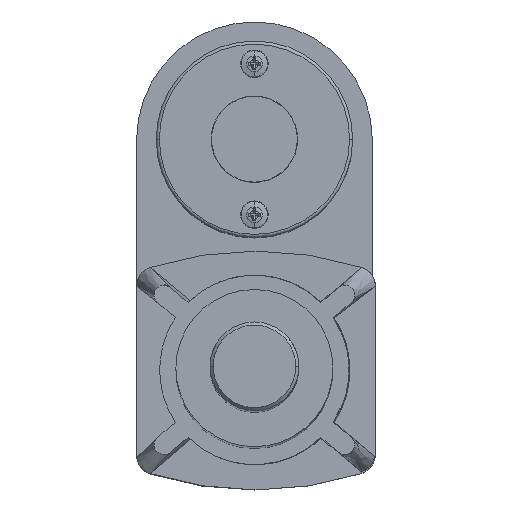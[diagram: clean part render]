
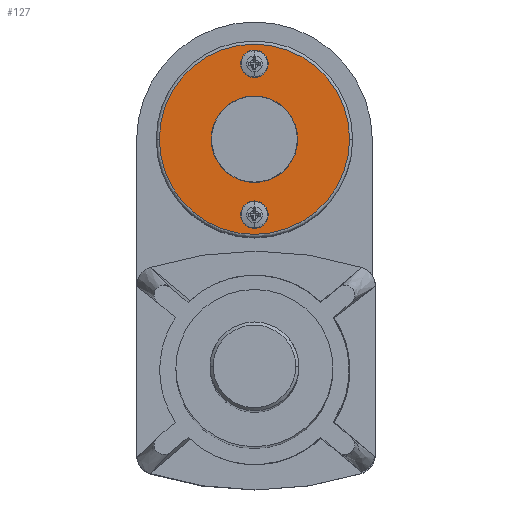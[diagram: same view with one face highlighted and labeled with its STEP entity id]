
A CAD part, top view. The second image highlights one B-rep face of the part: STEP entity #127.
In plain terms, the highlighted planar face has unit normal (0, 0, 1).
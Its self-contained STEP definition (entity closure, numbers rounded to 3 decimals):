
#127 = ADVANCED_FACE ( 'NONE', ( #10406, #10807, #5061 ), #7182, .T. ) ;
#211 = EDGE_CURVE ( 'NONE', #3759, #8978, #5048, .T. ) ;
#261 = CARTESIAN_POINT ( 'NONE',  ( 69.358, -31.638, 406.098 ) ) ;
#300 = CARTESIAN_POINT ( 'NONE',  ( 38.608, -31.638, 406.098 ) ) ;
#420 = CARTESIAN_POINT ( 'NONE',  ( 36.068, -7.238, 406.098 ) ) ;
#636 = DIRECTION ( 'NONE',  ( 0., 0., 1. ) ) ;
#887 = AXIS2_PLACEMENT_3D ( 'NONE', #9325, #1700, #10068 ) ;
#1147 = DIRECTION ( 'NONE',  ( 0., 0., 1. ) ) ;
#1435 = AXIS2_PLACEMENT_3D ( 'NONE', #300, #2087, #8907 ) ;
#1520 = DIRECTION ( 'NONE',  ( 0., 0., 1. ) ) ;
#1700 = DIRECTION ( 'NONE',  ( 0., 0., 1. ) ) ;
#1870 = CARTESIAN_POINT ( 'NONE',  ( 41.148, -7.238, 406.098 ) ) ;
#1900 = EDGE_CURVE ( 'NONE', #8978, #3759, #8870, .T. ) ;
#2074 = CARTESIAN_POINT ( 'NONE',  ( 41.148, -56.038, 406.098 ) ) ;
#2087 = DIRECTION ( 'NONE',  ( 0., 0., 1. ) ) ;
#2150 = ORIENTED_EDGE ( 'NONE', *, *, #8243, .T. ) ;
#2533 = CIRCLE ( 'NONE', #9046, 30.75 ) ;
#2756 = VERTEX_POINT ( 'NONE', #261 ) ;
#2813 = ORIENTED_EDGE ( 'NONE', *, *, #6913, .T. ) ;
#3129 = AXIS2_PLACEMENT_3D ( 'NONE', #7300, #4826, #9089 ) ;
#3309 = AXIS2_PLACEMENT_3D ( 'NONE', #5719, #636, #4033 ) ;
#3465 = DIRECTION ( 'NONE',  ( -1., 0., 0. ) ) ;
#3502 = CARTESIAN_POINT ( 'NONE',  ( 38.608, -31.638, 406.098 ) ) ;
#3588 = CARTESIAN_POINT ( 'NONE',  ( 38.608, -56.038, 406.098 ) ) ;
#3674 = ORIENTED_EDGE ( 'NONE', *, *, #211, .F. ) ;
#3759 = VERTEX_POINT ( 'NONE', #420 ) ;
#4033 = DIRECTION ( 'NONE',  ( -1., 0., 0. ) ) ;
#4115 = EDGE_CURVE ( 'NONE', #8199, #10095, #5898, .T. ) ;
#4826 = DIRECTION ( 'NONE',  ( 0., 0., 1. ) ) ;
#4898 = AXIS2_PLACEMENT_3D ( 'NONE', #5758, #1520, #10789 ) ;
#5048 = CIRCLE ( 'NONE', #3129, 2.54 ) ;
#5061 = FACE_OUTER_BOUND ( 'NONE', #6554, .T. ) ;
#5265 = CARTESIAN_POINT ( 'NONE',  ( 7.858, -31.638, 406.098 ) ) ;
#5277 = ORIENTED_EDGE ( 'NONE', *, *, #4115, .F. ) ;
#5328 = AXIS2_PLACEMENT_3D ( 'NONE', #3588, #1147, #10489 ) ;
#5719 = CARTESIAN_POINT ( 'NONE',  ( 38.608, -56.038, 406.098 ) ) ;
#5758 = CARTESIAN_POINT ( 'NONE',  ( 38.608, -31.638, 406.098 ) ) ;
#5813 = CIRCLE ( 'NONE', #5328, 2.54 ) ;
#5898 = CIRCLE ( 'NONE', #3309, 2.54 ) ;
#6554 = EDGE_LOOP ( 'NONE', ( #2150, #2813 ) ) ;
#6913 = EDGE_CURVE ( 'NONE', #2756, #9864, #2533, .T. ) ;
#7182 = PLANE ( 'NONE',  #1435 ) ;
#7300 = CARTESIAN_POINT ( 'NONE',  ( 38.608, -7.238, 406.098 ) ) ;
#7758 = ORIENTED_EDGE ( 'NONE', *, *, #1900, .F. ) ;
#8199 = VERTEX_POINT ( 'NONE', #9076 ) ;
#8243 = EDGE_CURVE ( 'NONE', #9864, #2756, #10102, .T. ) ;
#8870 = CIRCLE ( 'NONE', #887, 2.54 ) ;
#8907 = DIRECTION ( 'NONE',  ( -1., 0., 0. ) ) ;
#8978 = VERTEX_POINT ( 'NONE', #1870 ) ;
#9046 = AXIS2_PLACEMENT_3D ( 'NONE', #3502, #10250, #3465 ) ;
#9076 = CARTESIAN_POINT ( 'NONE',  ( 36.068, -56.038, 406.098 ) ) ;
#9085 = EDGE_LOOP ( 'NONE', ( #5277, #11048 ) ) ;
#9089 = DIRECTION ( 'NONE',  ( -1., 0., 0. ) ) ;
#9295 = EDGE_LOOP ( 'NONE', ( #3674, #7758 ) ) ;
#9325 = CARTESIAN_POINT ( 'NONE',  ( 38.608, -7.238, 406.098 ) ) ;
#9864 = VERTEX_POINT ( 'NONE', #5265 ) ;
#9888 = EDGE_CURVE ( 'NONE', #10095, #8199, #5813, .T. ) ;
#10068 = DIRECTION ( 'NONE',  ( -1., 0., 0. ) ) ;
#10095 = VERTEX_POINT ( 'NONE', #2074 ) ;
#10102 = CIRCLE ( 'NONE', #4898, 30.75 ) ;
#10250 = DIRECTION ( 'NONE',  ( 0., 0., 1. ) ) ;
#10406 = FACE_BOUND ( 'NONE', #9085, .T. ) ;
#10489 = DIRECTION ( 'NONE',  ( -1., 0., 0. ) ) ;
#10789 = DIRECTION ( 'NONE',  ( -1., 0., 0. ) ) ;
#10807 = FACE_BOUND ( 'NONE', #9295, .T. ) ;
#11048 = ORIENTED_EDGE ( 'NONE', *, *, #9888, .F. ) ;
